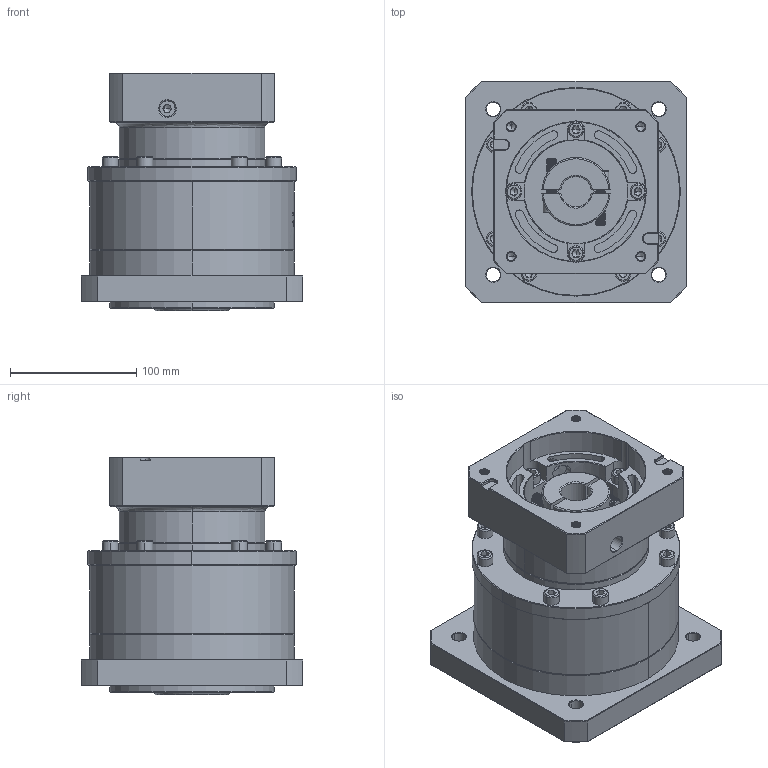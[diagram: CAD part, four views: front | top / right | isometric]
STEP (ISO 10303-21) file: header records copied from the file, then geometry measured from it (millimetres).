
FILE_DESCRIPTION (( 'STEP AP214' ), '1' );
FILE_NAME ('ZF160-K35-L1-24-110-145-M8.step', '2023-03-21T04:31:12', ( '' ), ( '' ), 'SwSTEP 2.0', 'SolidWorks 2016', '' );
FILE_SCHEMA (( 'AUTOMOTIVE_DESIGN' ));
Length unit declared in the file: millimetre
Products named in the file (1): ZF160-K35-L1-24-110-145-M8
Bounding box: 175 x 175 x 187.8 mm (x, y, z)
Volume: 3050737.3 mm3; surface area: 307932.6 mm2
Topology: 7 solids, 7 shells, 1854 faces, 4734 edges, 3001 vertices
Faces by surface type: plane 767, cylinder 467, cone 355, bspline 210, torus 55
Entity records: 98578 total; most frequent: CARTESIAN_POINT 35353, ORIENTED_EDGE 9364, DIRECTION 8280, EDGE_CURVE 4682, VERTEX_POINT 3001, AXIS2_PLACEMENT_3D 2883, VECTOR 2514, LINE 2514
